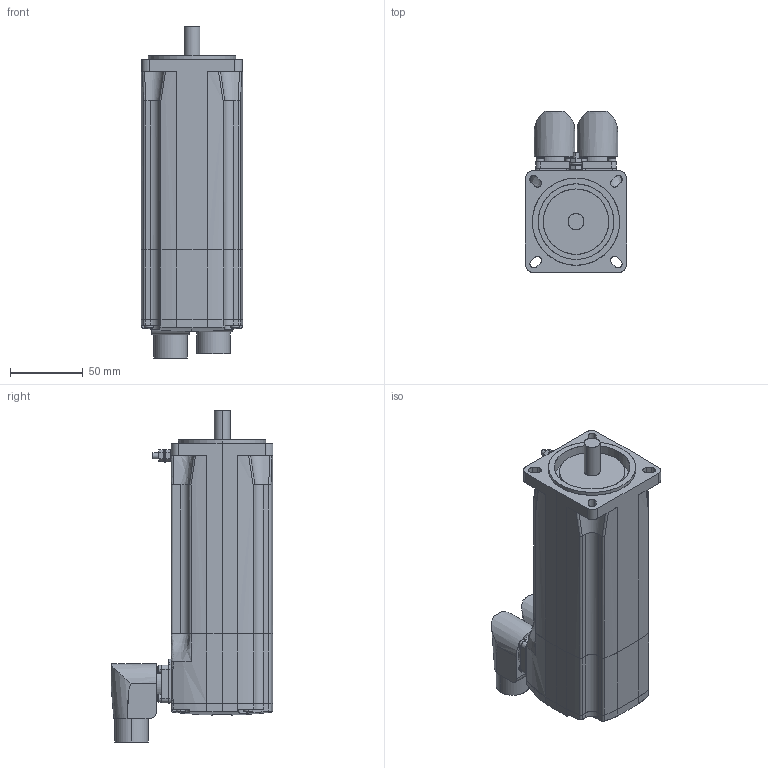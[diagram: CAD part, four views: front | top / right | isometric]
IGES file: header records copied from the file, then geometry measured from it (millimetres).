
Start section: SolidWorks IGES file using analytic representation for surfaces
Global section: file name: C:\PDM\SW-SAP\AA-IGES\SH30702x0xA2100.IGS; native system: SolidWorks 2010; preprocessor: SolidWorks 2010; author: SESA21951; date: 131129.085611; units: millimetre
Bounding box: 70 x 111.4 x 228.45 mm (x, y, z)
Surface area: 96400.2 mm2 (no closed solid volume)
Topology: 0 solids, 0 shells, 424 faces, 6057 edges, 6053 vertices
Faces by surface type: bspline 220, revolution 204
